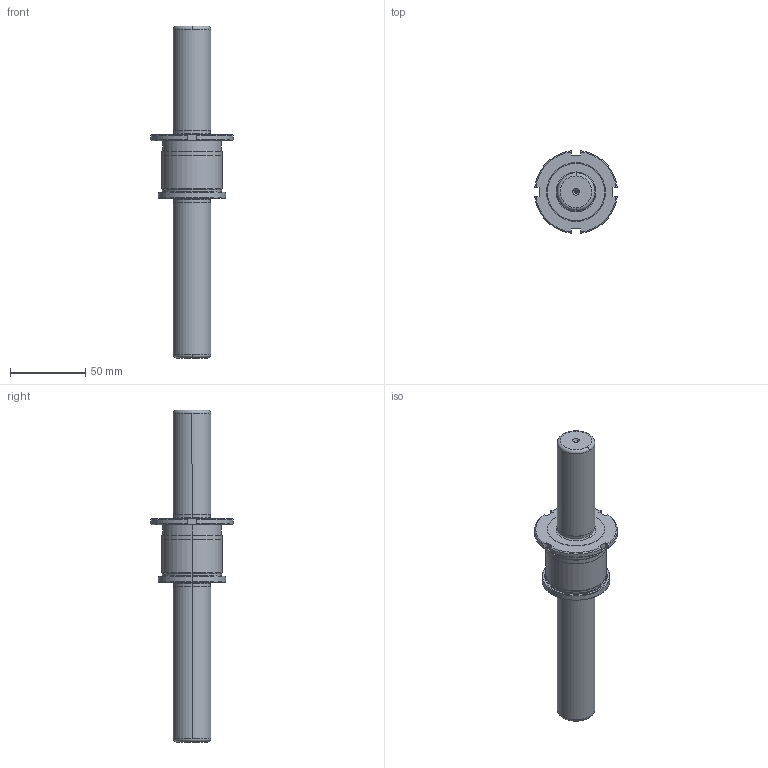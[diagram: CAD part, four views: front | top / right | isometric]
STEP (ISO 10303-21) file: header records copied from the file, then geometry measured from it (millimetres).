
FILE_DESCRIPTION((''),'2;1');
FILE_NAME('CMF_025_220.stp','2008-11-04T11:11:18',(''),(''),'Mechanical Desktop 2009','Mechanical Desktop 2009',', , ');
FILE_SCHEMA(('CONFIG_CONTROL_DESIGN'));
Length unit declared in the file: millimetre
Products named in the file (2): Product; blmdl1
Assembly tree (1 placements, depth 2):
  Product
    blmdl1
Bounding box: 54.67 x 54.67 x 220 mm (x, y, z)
Volume: 144187.2 mm3; surface area: 26258.1 mm2
Topology: 2 solids, 2 shells, 92 faces, 223 edges, 141 vertices
Faces by surface type: cylinder 30, cone 28, plane 24, bspline 6, torus 4
Entity records: 3035 total; most frequent: CARTESIAN_POINT 750, DIRECTION 496, ORIENTED_EDGE 438, EDGE_CURVE 219, AXIS2_PLACEMENT_3D 205, VERTEX_POINT 141, CIRCLE 117, EDGE_LOOP 104
